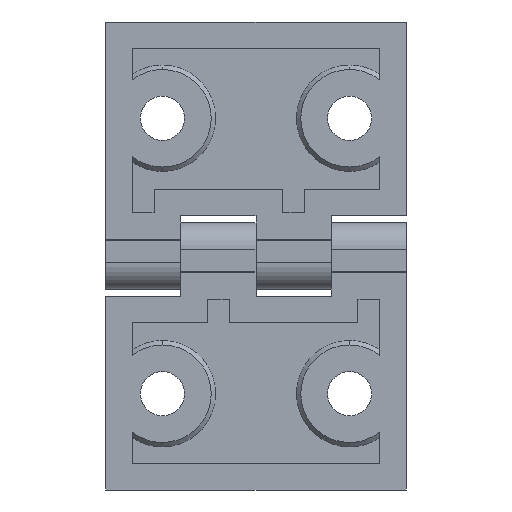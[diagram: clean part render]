
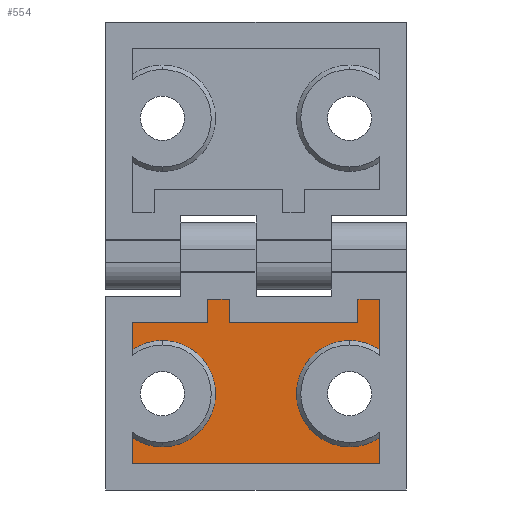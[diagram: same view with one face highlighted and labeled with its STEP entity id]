
A CAD part, front view. The second image highlights one B-rep face of the part: STEP entity #554.
In plain terms, the highlighted planar face has unit normal (0, -1, 0).
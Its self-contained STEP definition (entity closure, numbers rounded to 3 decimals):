
#4 = DIRECTION ( 'NONE',  ( 0., 1., 0. ) ) ;
#14 = EDGE_CURVE ( 'NONE', #1140, #1683, #2352, .T. ) ;
#51 = LINE ( 'NONE', #1891, #906 ) ;
#68 = ORIENTED_EDGE ( 'NONE', *, *, #2453, .F. ) ;
#74 = DIRECTION ( 'NONE',  ( 0., -1., 0. ) ) ;
#79 = ORIENTED_EDGE ( 'NONE', *, *, #14, .T. ) ;
#96 = VERTEX_POINT ( 'NONE', #1367 ) ;
#106 = VERTEX_POINT ( 'NONE', #1174 ) ;
#143 = CARTESIAN_POINT ( 'NONE',  ( 14., 2., -20.6 ) ) ;
#158 = VECTOR ( 'NONE', #1789, 1000. ) ;
#230 = ORIENTED_EDGE ( 'NONE', *, *, #1313, .T. ) ;
#256 = DIRECTION ( 'NONE',  ( -1., 0., 0. ) ) ;
#274 = DIRECTION ( 'NONE',  ( 0., 1., 0. ) ) ;
#277 = CARTESIAN_POINT ( 'NONE',  ( -7.25, 2., -33.5 ) ) ;
#293 = LINE ( 'NONE', #643, #2365 ) ;
#299 = DIRECTION ( 'NONE',  ( 0., 0., -1. ) ) ;
#304 = CARTESIAN_POINT ( 'NONE',  ( -14., 2., -20.6 ) ) ;
#335 = CARTESIAN_POINT ( 'NONE',  ( 18.5, 2., -6.141 ) ) ;
#361 = AXIS2_PLACEMENT_3D ( 'NONE', #1984, #746, #751 ) ;
#394 = EDGE_CURVE ( 'NONE', #457, #1089, #1375, .T. ) ;
#457 = VERTEX_POINT ( 'NONE', #1854 ) ;
#458 = DIRECTION ( 'NONE',  ( 0., 0., -1. ) ) ;
#486 = DIRECTION ( 'NONE',  ( 0., 0., -1. ) ) ;
#529 = VECTOR ( 'NONE', #1314, 1000. ) ;
#554 = ADVANCED_FACE ( 'NONE', ( #2347 ), #2320, .T. ) ;
#562 = CARTESIAN_POINT ( 'NONE',  ( 15.25, 2., -33.5 ) ) ;
#576 = VERTEX_POINT ( 'NONE', #1088 ) ;
#601 = EDGE_CURVE ( 'NONE', #1229, #868, #1654, .T. ) ;
#607 = ORIENTED_EDGE ( 'NONE', *, *, #2588, .F. ) ;
#610 = ORIENTED_EDGE ( 'NONE', *, *, #1216, .T. ) ;
#611 = VECTOR ( 'NONE', #2377, 1000. ) ;
#612 = LINE ( 'NONE', #562, #1694 ) ;
#618 = ORIENTED_EDGE ( 'NONE', *, *, #1673, .T. ) ;
#632 = VECTOR ( 'NONE', #2154, 1000. ) ;
#643 = CARTESIAN_POINT ( 'NONE',  ( 22.5, 2., -6.141 ) ) ;
#671 = CARTESIAN_POINT ( 'NONE',  ( 22.5, 2., -33.5 ) ) ;
#677 = DIRECTION ( 'NONE',  ( 0., 0., 1. ) ) ;
#689 = EDGE_CURVE ( 'NONE', #809, #1231, #1616, .T. ) ;
#718 = DIRECTION ( 'NONE',  ( 0., 1., 0. ) ) ;
#719 = CARTESIAN_POINT ( 'NONE',  ( -7.25, 2., -6.141 ) ) ;
#746 = DIRECTION ( 'NONE',  ( 0., 1., 0. ) ) ;
#751 = DIRECTION ( 'NONE',  ( 0., 0., -1. ) ) ;
#761 = DIRECTION ( 'NONE',  ( 0., 0., -1. ) ) ;
#762 = VERTEX_POINT ( 'NONE', #2346 ) ;
#776 = DIRECTION ( 'NONE',  ( 0., 0., -1. ) ) ;
#802 = LINE ( 'NONE', #891, #611 ) ;
#809 = VERTEX_POINT ( 'NONE', #719 ) ;
#823 = AXIS2_PLACEMENT_3D ( 'NONE', #671, #74, #458 ) ;
#835 = DIRECTION ( 'NONE',  ( 0., 0., 1. ) ) ;
#837 = LINE ( 'NONE', #2240, #2171 ) ;
#868 = VERTEX_POINT ( 'NONE', #1187 ) ;
#869 = CARTESIAN_POINT ( 'NONE',  ( -14., 2., -12.643 ) ) ;
#874 = LINE ( 'NONE', #2370, #1943 ) ;
#891 = CARTESIAN_POINT ( 'NONE',  ( 18.5, 2., -33.5 ) ) ;
#894 = EDGE_CURVE ( 'NONE', #1089, #1996, #2080, .T. ) ;
#906 = VECTOR ( 'NONE', #1048, 1000. ) ;
#929 = DIRECTION ( 'NONE',  ( 0., 0., -1. ) ) ;
#969 = CARTESIAN_POINT ( 'NONE',  ( -4., 2., -6. ) ) ;
#990 = VERTEX_POINT ( 'NONE', #2632 ) ;
#1048 = DIRECTION ( 'NONE',  ( -1., 0., 0. ) ) ;
#1051 = EDGE_CURVE ( 'NONE', #1231, #576, #837, .T. ) ;
#1061 = ORIENTED_EDGE ( 'NONE', *, *, #894, .T. ) ;
#1066 = LINE ( 'NONE', #2019, #158 ) ;
#1088 = CARTESIAN_POINT ( 'NONE',  ( -18.5, 2., -10. ) ) ;
#1089 = VERTEX_POINT ( 'NONE', #869 ) ;
#1113 = EDGE_CURVE ( 'NONE', #1462, #96, #293, .T. ) ;
#1127 = DIRECTION ( 'NONE',  ( -1., 0., 0. ) ) ;
#1133 = CIRCLE ( 'NONE', #1600, 7.957 ) ;
#1140 = VERTEX_POINT ( 'NONE', #1280 ) ;
#1174 = CARTESIAN_POINT ( 'NONE',  ( 18.5, 2., -27.162 ) ) ;
#1187 = CARTESIAN_POINT ( 'NONE',  ( 14., 2., -12.643 ) ) ;
#1216 = EDGE_CURVE ( 'NONE', #2400, #1462, #802, .T. ) ;
#1229 = VERTEX_POINT ( 'NONE', #1946 ) ;
#1231 = VERTEX_POINT ( 'NONE', #2583 ) ;
#1245 = CARTESIAN_POINT ( 'NONE',  ( 18.5, 2., -31. ) ) ;
#1280 = CARTESIAN_POINT ( 'NONE',  ( -18.5, 2., -31. ) ) ;
#1301 = EDGE_CURVE ( 'NONE', #868, #2400, #2331, .T. ) ;
#1313 = EDGE_CURVE ( 'NONE', #1996, #1722, #1133, .T. ) ;
#1314 = DIRECTION ( 'NONE',  ( 0., 0., -1. ) ) ;
#1335 = DIRECTION ( 'NONE',  ( 0., 1., 0. ) ) ;
#1367 = CARTESIAN_POINT ( 'NONE',  ( 15.25, 2., -6.141 ) ) ;
#1375 = CIRCLE ( 'NONE', #2490, 7.957 ) ;
#1460 = LINE ( 'NONE', #2124, #2270 ) ;
#1462 = VERTEX_POINT ( 'NONE', #335 ) ;
#1488 = ORIENTED_EDGE ( 'NONE', *, *, #2521, .T. ) ;
#1531 = ORIENTED_EDGE ( 'NONE', *, *, #1113, .T. ) ;
#1548 = CARTESIAN_POINT ( 'NONE',  ( 14., 2., -20.6 ) ) ;
#1592 = DIRECTION ( 'NONE',  ( 0., 1., 0. ) ) ;
#1594 = ORIENTED_EDGE ( 'NONE', *, *, #2395, .T. ) ;
#1599 = DIRECTION ( 'NONE',  ( 0., 0., -1. ) ) ;
#1600 = AXIS2_PLACEMENT_3D ( 'NONE', #304, #718, #929 ) ;
#1616 = LINE ( 'NONE', #277, #529 ) ;
#1617 = LINE ( 'NONE', #2087, #2039 ) ;
#1647 = DIRECTION ( 'NONE',  ( 0., 0., -1. ) ) ;
#1654 = CIRCLE ( 'NONE', #2032, 7.957 ) ;
#1673 = EDGE_CURVE ( 'NONE', #762, #809, #51, .T. ) ;
#1683 = VERTEX_POINT ( 'NONE', #1245 ) ;
#1694 = VECTOR ( 'NONE', #761, 1000. ) ;
#1722 = VERTEX_POINT ( 'NONE', #1863 ) ;
#1764 = CARTESIAN_POINT ( 'NONE',  ( -14., 2., -28.557 ) ) ;
#1789 = DIRECTION ( 'NONE',  ( 0., 0., 1. ) ) ;
#1809 = VECTOR ( 'NONE', #776, 1000. ) ;
#1832 = CARTESIAN_POINT ( 'NONE',  ( 15.25, 2., -10. ) ) ;
#1854 = CARTESIAN_POINT ( 'NONE',  ( -18.5, 2., -14.038 ) ) ;
#1863 = CARTESIAN_POINT ( 'NONE',  ( -18.5, 2., -27.162 ) ) ;
#1870 = ORIENTED_EDGE ( 'NONE', *, *, #2624, .T. ) ;
#1891 = CARTESIAN_POINT ( 'NONE',  ( 22.5, 2., -6.141 ) ) ;
#1941 = ORIENTED_EDGE ( 'NONE', *, *, #394, .T. ) ;
#1943 = VECTOR ( 'NONE', #1127, 1000. ) ;
#1946 = CARTESIAN_POINT ( 'NONE',  ( 14., 2., -28.557 ) ) ;
#1954 = AXIS2_PLACEMENT_3D ( 'NONE', #1548, #1335, #299 ) ;
#1968 = EDGE_CURVE ( 'NONE', #2261, #990, #874, .T. ) ;
#1972 = ORIENTED_EDGE ( 'NONE', *, *, #601, .T. ) ;
#1977 = AXIS2_PLACEMENT_3D ( 'NONE', #2525, #274, #486 ) ;
#1984 = CARTESIAN_POINT ( 'NONE',  ( -14., 2., -20.6 ) ) ;
#1993 = ORIENTED_EDGE ( 'NONE', *, *, #1968, .T. ) ;
#1996 = VERTEX_POINT ( 'NONE', #1764 ) ;
#2019 = CARTESIAN_POINT ( 'NONE',  ( -18.5, 2., -33.5 ) ) ;
#2032 = AXIS2_PLACEMENT_3D ( 'NONE', #143, #1592, #1599 ) ;
#2039 = VECTOR ( 'NONE', #835, 1000. ) ;
#2058 = ORIENTED_EDGE ( 'NONE', *, *, #2557, .F. ) ;
#2070 = ORIENTED_EDGE ( 'NONE', *, *, #1301, .T. ) ;
#2074 = LINE ( 'NONE', #969, #1809 ) ;
#2080 = CIRCLE ( 'NONE', #361, 7.957 ) ;
#2087 = CARTESIAN_POINT ( 'NONE',  ( 18.5, 2., -33.5 ) ) ;
#2124 = CARTESIAN_POINT ( 'NONE',  ( -18.5, 2., -33.5 ) ) ;
#2154 = DIRECTION ( 'NONE',  ( 1., 0., 0. ) ) ;
#2161 = ORIENTED_EDGE ( 'NONE', *, *, #1051, .T. ) ;
#2171 = VECTOR ( 'NONE', #2247, 1000. ) ;
#2240 = CARTESIAN_POINT ( 'NONE',  ( 22.5, 2., -10. ) ) ;
#2247 = DIRECTION ( 'NONE',  ( -1., 0., 0. ) ) ;
#2261 = VERTEX_POINT ( 'NONE', #1832 ) ;
#2270 = VECTOR ( 'NONE', #677, 1000. ) ;
#2282 = CARTESIAN_POINT ( 'NONE',  ( -14., 2., -20.6 ) ) ;
#2312 = CARTESIAN_POINT ( 'NONE',  ( 18.5, 2., -14.038 ) ) ;
#2320 = PLANE ( 'NONE',  #823 ) ;
#2331 = CIRCLE ( 'NONE', #1954, 7.957 ) ;
#2346 = CARTESIAN_POINT ( 'NONE',  ( -4., 2., -6.141 ) ) ;
#2347 = FACE_OUTER_BOUND ( 'NONE', #2480, .T. ) ;
#2352 = LINE ( 'NONE', #2553, #632 ) ;
#2365 = VECTOR ( 'NONE', #256, 1000. ) ;
#2370 = CARTESIAN_POINT ( 'NONE',  ( 22.5, 2., -10. ) ) ;
#2377 = DIRECTION ( 'NONE',  ( 0., 0., 1. ) ) ;
#2395 = EDGE_CURVE ( 'NONE', #1683, #106, #1617, .T. ) ;
#2400 = VERTEX_POINT ( 'NONE', #2312 ) ;
#2453 = EDGE_CURVE ( 'NONE', #457, #576, #1460, .T. ) ;
#2480 = EDGE_LOOP ( 'NONE', ( #1531, #1870, #1993, #607, #618, #2512, #2161, #68, #1941, #1061, #230, #2058, #79, #1594, #1488, #1972, #2070, #610 ) ) ;
#2490 = AXIS2_PLACEMENT_3D ( 'NONE', #2282, #4, #1647 ) ;
#2512 = ORIENTED_EDGE ( 'NONE', *, *, #689, .T. ) ;
#2521 = EDGE_CURVE ( 'NONE', #106, #1229, #2548, .T. ) ;
#2525 = CARTESIAN_POINT ( 'NONE',  ( 14., 2., -20.6 ) ) ;
#2548 = CIRCLE ( 'NONE', #1977, 7.957 ) ;
#2553 = CARTESIAN_POINT ( 'NONE',  ( 22.5, 2., -31. ) ) ;
#2557 = EDGE_CURVE ( 'NONE', #1140, #1722, #1066, .T. ) ;
#2583 = CARTESIAN_POINT ( 'NONE',  ( -7.25, 2., -10. ) ) ;
#2588 = EDGE_CURVE ( 'NONE', #762, #990, #2074, .T. ) ;
#2624 = EDGE_CURVE ( 'NONE', #96, #2261, #612, .T. ) ;
#2632 = CARTESIAN_POINT ( 'NONE',  ( -4., 2., -10. ) ) ;
